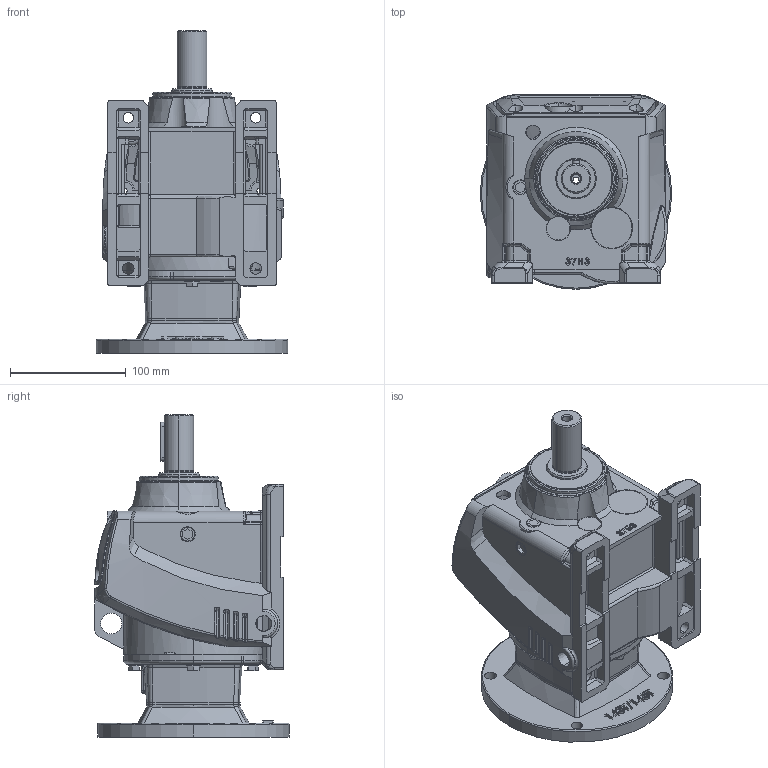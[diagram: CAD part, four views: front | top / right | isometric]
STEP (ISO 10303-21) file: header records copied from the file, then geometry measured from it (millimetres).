
FILE_DESCRIPTION (( 'STEP AP203' ), '1' );
FILE_NAME ('WINL37-145TC.STEP', '2013-09-26T09:07:20', ( 'User' ), ( 'Chenta' ), 'SwSTEP 2.0', 'SolidWorks 2011', '' );
FILE_SCHEMA (( 'CONFIG_CONTROL_DESIGN' ));
Products named in the file (1): WINL37-145TC
Bounding box: 165.1 x 167.55 x 278 mm (x, y, z)
Surface area: 259050.1 mm2 (no closed solid volume)
Topology: 0 solids, 29 shells, 1170 faces, 3393 edges, 2208 vertices
Faces by surface type: plane 434, cylinder 288, bspline 258, cone 109, torus 49, sphere 32
Entity records: 53302 total; most frequent: CARTESIAN_POINT 24933, ORIENTED_EDGE 6151, DIRECTION 5166, EDGE_CURVE 3364, VERTEX_POINT 2208, AXIS2_PLACEMENT_3D 1825, VECTOR 1516, LINE 1516
